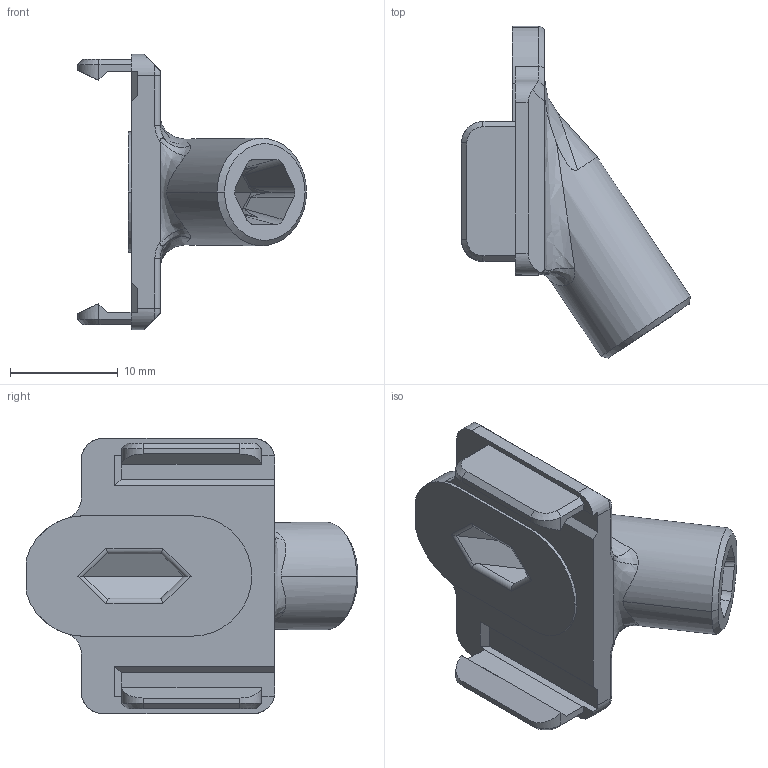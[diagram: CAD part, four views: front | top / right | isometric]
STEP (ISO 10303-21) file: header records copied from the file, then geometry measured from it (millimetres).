
FILE_DESCRIPTION (( 'STEP AP203' ), '1' );
FILE_NAME ('C5絳佪奪砎蝶籵耋4.1.STEP', '2026-06-24T07:52:17', ( '' ), ( '' ), 'SwSTEP 2.0', 'SolidWorks 2024', '' );
FILE_SCHEMA (( 'CONFIG_CONTROL_DESIGN' ));
Length unit declared in the file: millimetre
Products named in the file (1): C5导丝管橡胶通道4.1
Bounding box: 21.3 x 30.88 x 25.6 mm (x, y, z)
Volume: 2504.9 mm3; surface area: 2230.6 mm2
Topology: 1 solids, 1 shells, 133 faces, 349 edges, 218 vertices
Faces by surface type: plane 56, cylinder 44, bspline 20, cone 11, torus 2
Entity records: 4722 total; most frequent: CARTESIAN_POINT 1676, ORIENTED_EDGE 698, DIRECTION 537, EDGE_CURVE 349, VERTEX_POINT 218, LINE 191, VECTOR 191, AXIS2_PLACEMENT_3D 173
